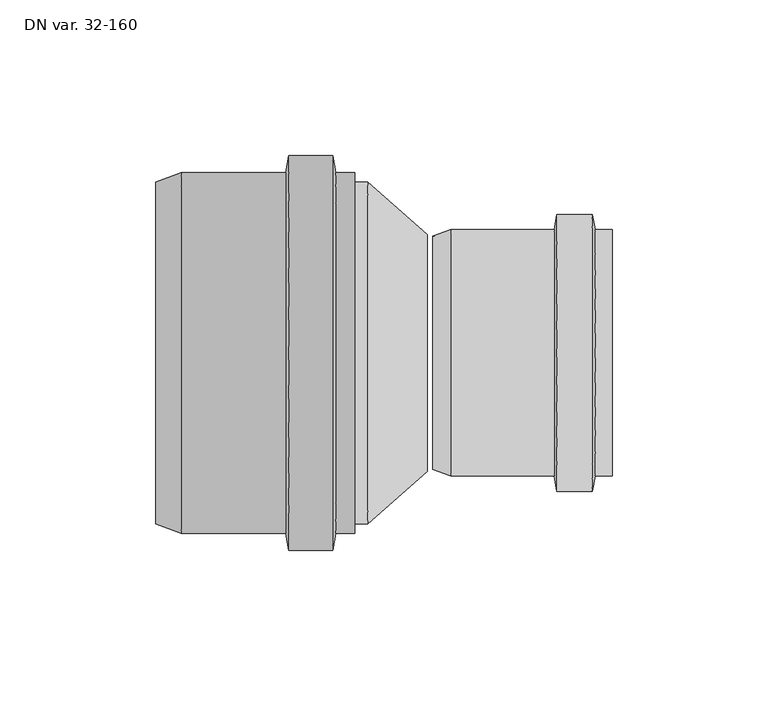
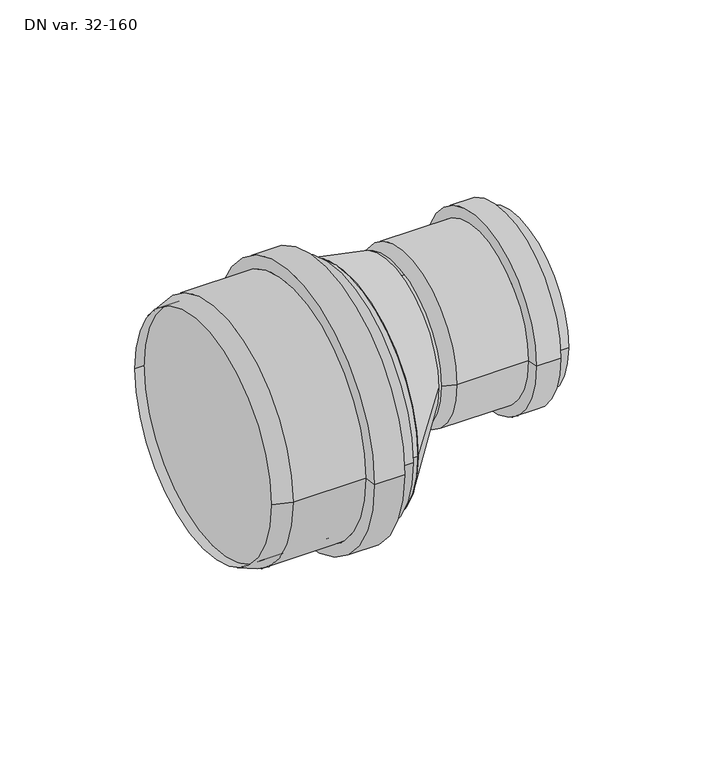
"""IFC4 building model written with IfcOpenShell, lengths in millimetres: pipe fitting geometry, PP MASTER 3+ INZETVERLOOP EXCENT. : DN var. 32-160."""

from ifc_helpers import new_model, si_unit, point, frame, origin, origin_2d, place, context, project, spatial, polyline, circle_curve, trimmed, segment, composite_curve, outline, extrude, source, transform, mapped, element, save
from ifc_brep_helpers import plane_surface, cylinder_surface, revolved_surface, spline_surface, advanced_brep


def dn_var_32_160_0daad809(model_context):
    return source(origin(), model_context, "Body", "SolidModel", [
        advanced_brep(
        [(15.9287839, -55.0, 0.0), (15.9287839, 55.0, 0.0), (-48.0712161, 55.0, 0.0), (-48.0712161, -55.0, 0.0), (-39.8287839, 58.0, 0.0), (-39.8287839, -58.0, 0.0), (-6.1712161, 58.0, 0.0), (-6.1712161, -58.0, 0.0), (-5.2014177, 63.5, 0.0), (-5.2014177, -63.5, 0.0), (8.8589855, 63.5, 0.0), (8.8589855, -63.5, 0.0), (9.8287839, 58.0, 0.0), (9.8287839, -58.0, 0.0), (15.9287839, 58.0, 0.0), (15.9287839, -58.0, 0.0)],
        [
            (0, 1, circle_curve(frame((15.9287839, 0.0, 0.0), z_axis=(1.0, 0.0, 0.0), x_axis=(0.0, 1.0, 0.0)), 55.0)),
            (1, 2),
            (2, 3, circle_curve(frame((-48.0712161, 0.0, 0.0), z_axis=(-1.0, 0.0, 0.0), x_axis=(0.0, 1.0, 0.0)), 55.0)),
            (3, 0),
            (1, 0, circle_curve(frame((15.9287839, 0.0, 0.0), z_axis=(1.0, 0.0, 0.0), x_axis=(0.0, 1.0, 0.0)), 55.0)),
            (3, 2, circle_curve(frame((-48.0712161, 0.0, 0.0), z_axis=(-1.0, 0.0, 0.0), x_axis=(0.0, 1.0, 0.0)), 55.0)),
            (2, 4),
            (4, 5, circle_curve(frame((-39.8287839, 0.0, 0.0), z_axis=(-1.0, 0.0, 0.0), x_axis=(0.0, 1.0, 0.0)), 58.0)),
            (5, 3),
            (5, 4, circle_curve(frame((-39.8287839, 0.0, 0.0), z_axis=(-1.0, 0.0, 0.0), x_axis=(0.0, 1.0, 0.0)), 58.0)),
            (4, 6),
            (6, 7, circle_curve(frame((-6.1712161, 0.0, 0.0), z_axis=(-1.0, 0.0, 0.0), x_axis=(0.0, 1.0, 0.0)), 58.0)),
            (7, 5),
            (7, 6, circle_curve(frame((-6.1712161, 0.0, 0.0), z_axis=(-1.0, 0.0, 0.0), x_axis=(0.0, 1.0, 0.0)), 58.0)),
            (6, 8),
            (8, 9, circle_curve(frame((-5.2014177, 0.0, 0.0), z_axis=(-1.0, 0.0, 0.0), x_axis=(0.0, 1.0, 0.0)), 63.5)),
            (9, 7),
            (9, 8, circle_curve(frame((-5.2014177, 0.0, 0.0), z_axis=(-1.0, 0.0, 0.0), x_axis=(0.0, 1.0, 0.0)), 63.5)),
            (8, 10),
            (10, 11, circle_curve(frame((8.8589855, 0.0, 0.0), z_axis=(-1.0, 0.0, 0.0), x_axis=(0.0, 1.0, 0.0)), 63.5)),
            (11, 9),
            (11, 10, circle_curve(frame((8.8589855, 0.0, 0.0), z_axis=(-1.0, 0.0, 0.0), x_axis=(0.0, 1.0, 0.0)), 63.5)),
            (10, 12),
            (12, 13, circle_curve(frame((9.8287839, 0.0, 0.0), z_axis=(-1.0, 0.0, 0.0), x_axis=(0.0, 1.0, 0.0)), 58.0)),
            (13, 11),
            (13, 12, circle_curve(frame((9.8287839, 0.0, 0.0), z_axis=(-1.0, 0.0, 0.0), x_axis=(0.0, 1.0, 0.0)), 58.0)),
            (12, 14),
            (14, 15, circle_curve(frame((15.9287839, 0.0, 0.0), z_axis=(-1.0, 0.0, 0.0), x_axis=(0.0, 1.0, 0.0)), 58.0)),
            (15, 13),
            (15, 14, circle_curve(frame((15.9287839, 0.0, 0.0), z_axis=(-1.0, 0.0, 0.0), x_axis=(0.0, 1.0, 0.0)), 58.0)),
            (14, 1),
            (0, 15),
        ],
        [
            revolved_surface(polyline([(-48.0712161, 55.0, 0.0), (15.9287839, 55.0, 0.0)]), (25.9287839, 0.0, 0.0), (-1.0, 0.0, 0.0)),
            revolved_surface(polyline([(-39.8287839, 58.0, 0.0), (-48.0712161, 55.0, 0.0)]), (25.9287839, 0.0, 0.0), (-1.0, 0.0, 0.0)),
            cylinder_surface(frame((25.9287839, 0.0, 0.0), z_axis=(-1.0, 0.0, 0.0), x_axis=(0.0, 1.0, 0.0)), 58.0),
            revolved_surface(polyline([(-5.2014177, 63.5, 0.0), (-6.1712161, 58.0, 0.0)]), (25.9287839, 0.0, 0.0), (-1.0, 0.0, 0.0)),
            cylinder_surface(frame((25.9287839, 0.0, 0.0), z_axis=(-1.0, 0.0, 0.0), x_axis=(0.0, 1.0, 0.0)), 63.5),
            revolved_surface(polyline([(9.8287839, 58.0, 0.0), (8.8589855, 63.5, 0.0)]), (25.9287839, 0.0, 0.0), (-1.0, 0.0, 0.0)),
            plane_surface(frame((15.9287839, 0.0, 0.0), z_axis=(1.0, 0.0, 0.0), x_axis=(0.0, 1.0, 0.0))),
        ],
        [
            (0, [[1, 2, 3, 4]]),
            (0, [[5, -4, 6, -2]]),
            (1, [[-3, 7, 8, 9]]),
            (1, [[-6, -9, 10, -7]]),
            (2, [[-8, 11, 12, 13]]),
            (2, [[-10, -13, 14, -11]]),
            (3, [[-12, 15, 16, 17]]),
            (3, [[-14, -17, 18, -15]]),
            (4, [[-16, 19, 20, 21]]),
            (4, [[-18, -21, 22, -19]]),
            (5, [[-20, 23, 24, 25]]),
            (5, [[-22, -25, 26, -23]]),
            (2, [[-24, 27, 28, 29]]),
            (2, [[-26, -29, 30, -27]]),
            (6, [[-28, 31, -1, 32]]),
            (6, [[-30, -32, -5, -31]]),
        ],
    ),
        advanced_brep(
        [(41.0651487, 37.5, 16.4), (41.0651487, -37.5, 16.4), (98.7651487, -37.5, 16.4), (98.7651487, 37.5, 16.4), (46.8348513, 39.6, 16.4), (46.8348513, -39.6, 16.4), (80.0651487, 39.6, 16.4), (80.0651487, -39.6, 16.4), (80.9379673, 44.55, 16.4), (80.9379673, -44.55, 16.4), (92.2923302, 44.55, 16.4), (92.2923302, -44.55, 16.4), (93.1651487, 39.6, 16.4), (93.1651487, -39.6, 16.4), (98.7651487, 39.6, 16.4), (98.7651487, -39.6, 16.4)],
        [
            (0, 1, circle_curve(frame((41.0651487, 0.0, 16.4), z_axis=(-1.0, 0.0, 0.0), x_axis=(0.0, -1.0, 0.0)), 37.5)),
            (1, 2),
            (2, 3, circle_curve(frame((98.7651487, 0.0, 16.4), z_axis=(1.0, 0.0, 0.0), x_axis=(0.0, -1.0, 0.0)), 37.5)),
            (3, 0),
            (1, 0, circle_curve(frame((41.0651487, 0.0, 16.4), z_axis=(-1.0, 0.0, 0.0), x_axis=(0.0, -1.0, 0.0)), 37.5)),
            (3, 2, circle_curve(frame((98.7651487, 0.0, 16.4), z_axis=(1.0, 0.0, 0.0), x_axis=(0.0, -1.0, 0.0)), 37.5)),
            (4, 5, circle_curve(frame((46.8348513, 0.0, 16.4), z_axis=(-1.0, 0.0, 0.0), x_axis=(0.0, -1.0, 0.0)), 39.6)),
            (5, 1),
            (0, 4),
            (5, 4, circle_curve(frame((46.8348513, 0.0, 16.4), z_axis=(-1.0, 0.0, 0.0), x_axis=(0.0, -1.0, 0.0)), 39.6)),
            (6, 7, circle_curve(frame((80.0651487, 0.0, 16.4), z_axis=(-1.0, 0.0, 0.0), x_axis=(0.0, -1.0, 0.0)), 39.6)),
            (7, 5),
            (4, 6),
            (7, 6, circle_curve(frame((80.0651487, 0.0, 16.4), z_axis=(-1.0, 0.0, 0.0), x_axis=(0.0, -1.0, 0.0)), 39.6)),
            (8, 9, circle_curve(frame((80.9379673, 0.0, 16.4), z_axis=(-1.0, 0.0, 0.0), x_axis=(0.0, -1.0, 0.0)), 44.55)),
            (9, 7),
            (6, 8),
            (9, 8, circle_curve(frame((80.9379673, 0.0, 16.4), z_axis=(-1.0, 0.0, 0.0), x_axis=(0.0, -1.0, 0.0)), 44.55)),
            (10, 11, circle_curve(frame((92.2923302, 0.0, 16.4), z_axis=(-1.0, 0.0, 0.0), x_axis=(0.0, -1.0, 0.0)), 44.55)),
            (11, 9),
            (8, 10),
            (11, 10, circle_curve(frame((92.2923302, 0.0, 16.4), z_axis=(-1.0, 0.0, 0.0), x_axis=(0.0, -1.0, 0.0)), 44.55)),
            (12, 13, circle_curve(frame((93.1651487, 0.0, 16.4), z_axis=(-1.0, 0.0, 0.0), x_axis=(0.0, -1.0, 0.0)), 39.6)),
            (13, 11),
            (10, 12),
            (13, 12, circle_curve(frame((93.1651487, 0.0, 16.4), z_axis=(-1.0, 0.0, 0.0), x_axis=(0.0, -1.0, 0.0)), 39.6)),
            (14, 15, circle_curve(frame((98.7651487, 0.0, 16.4), z_axis=(-1.0, 0.0, 0.0), x_axis=(0.0, -1.0, 0.0)), 39.6)),
            (15, 13),
            (12, 14),
            (15, 14, circle_curve(frame((98.7651487, 0.0, 16.4), z_axis=(-1.0, 0.0, 0.0), x_axis=(0.0, -1.0, 0.0)), 39.6)),
            (2, 15),
            (14, 3),
        ],
        [
            revolved_surface(polyline([(98.7651487, -37.5, 16.4), (41.06514870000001, -37.5, 16.4)]), (108.7651487, 0.0, 16.4), (1.0, 0.0, 0.0)),
            revolved_surface(polyline([(41.0651487, -37.5, 16.4), (46.8348513, -39.6, 16.4)]), (108.7651487, 0.0, 16.4), (1.0, 0.0, 0.0)),
            cylinder_surface(frame((108.7651487, 0.0, 16.4), z_axis=(1.0, 0.0, 0.0), x_axis=(0.0, -1.0, 0.0)), 39.6),
            revolved_surface(polyline([(80.0651487, -39.6, 16.4), (80.9379673, -44.55, 16.4)]), (108.7651487, 0.0, 16.4), (1.0, 0.0, 0.0)),
            cylinder_surface(frame((108.7651487, 0.0, 16.4), z_axis=(1.0, 0.0, 0.0), x_axis=(0.0, -1.0, 0.0)), 44.55),
            revolved_surface(polyline([(92.2923302, -44.55, 16.4), (93.1651487, -39.6, 16.4)]), (108.7651487, 0.0, 16.4), (1.0, 0.0, 0.0)),
            plane_surface(frame((98.7651487, 0.0, 16.4), z_axis=(1.0, 0.0, 0.0), x_axis=(0.0, -1.0, 0.0))),
        ],
        [
            (0, [[1, 2, 3, 4]]),
            (0, [[5, -4, 6, -2]]),
            (1, [[7, 8, -1, 9]]),
            (1, [[10, -9, -5, -8]]),
            (2, [[11, 12, -7, 13]]),
            (2, [[14, -13, -10, -12]]),
            (3, [[15, 16, -11, 17]]),
            (3, [[18, -17, -14, -16]]),
            (4, [[19, 20, -15, 21]]),
            (4, [[22, -21, -18, -20]]),
            (5, [[23, 24, -19, 25]]),
            (5, [[26, -25, -22, -24]]),
            (2, [[27, 28, -23, 29]]),
            (2, [[30, -29, -26, -28]]),
            (6, [[-3, 31, -27, 32]]),
            (6, [[-6, -32, -30, -31]]),
        ],
    ),
        advanced_brep(
        [(39.2792884, -38.05, 16.4), (39.2792884, 38.05, 16.4), (20.05, -55.0, 0.0), (20.05, 55.0, 0.0)],
        [
            (0, 1, circle_curve(frame((39.2792884, 0.0, 16.4), z_axis=(1.0, 0.0, 0.0), x_axis=(0.0, 1.0, 0.0)), 38.05)),
            (1, 0, circle_curve(frame((39.2792884, 0.0, 16.4), z_axis=(1.0, 0.0, 0.0), x_axis=(0.0, 1.0, 0.0)), 38.05)),
            (2, 3, circle_curve(frame((20.05, 0.0, 0.0), z_axis=(-1.0, 0.0, 0.0), x_axis=(0.0, 1.0, 0.0)), 55.0)),
            (3, 2, circle_curve(frame((20.05, 0.0, 0.0), z_axis=(-1.0, 0.0, 0.0), x_axis=(0.0, 1.0, 0.0)), 55.0)),
            (3, 1),
            (0, 2),
        ],
        [
            plane_surface(frame((39.2792884, 0.0, 16.4), z_axis=(1.0, 0.0, 0.0), x_axis=(0.0, 0.0, -1.0))),
            plane_surface(frame((20.05, 0.0, 0.0), z_axis=(-1.0, 0.0, 0.0), x_axis=(0.0, 0.0, -1.0))),
            spline_surface(2, 1, [[(20.05, -55.0, 0.0), (39.2792884, -38.05, 16.4)], [(20.05, -55.0, -55.0), (39.2792884, -38.05, -21.65)], [(20.05, 0.0, -55.0), (39.2792884, 0.0, -21.65)], [(20.05, 55.0, -55.0), (39.2792884, 38.05, -21.65)], [(20.05, 55.0, 0.0), (39.2792884, 38.05, 16.4)]], [3, 2, 3], [2, 2], [0.0, 1.0, 2.0], [0.0, 1.0], weights=[[1.0, 1.0], [0.7071067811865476, 0.7071067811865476], [1.0, 1.0], [0.7071067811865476, 0.7071067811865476], [1.0, 1.0]]),
            spline_surface(2, 1, [[(20.05, 55.0, 0.0), (39.2792884, 38.05, 16.4)], [(20.05, 55.0, 55.0), (39.2792884, 38.05, 54.449999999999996)], [(20.05, 0.0, 55.0), (39.2792884, 0.0, 54.449999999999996)], [(20.05, -55.0, 55.0), (39.2792884, -38.05, 54.449999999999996)], [(20.05, -55.0, 0.0), (39.2792884, -38.05, 16.4)]], [3, 2, 3], [2, 2], [0.0, 1.0, 2.0], [0.0, 1.0], weights=[[1.0, 1.0], [0.7071067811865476, 0.7071067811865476], [1.0, 1.0], [0.7071067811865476, 0.7071067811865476], [1.0, 1.0]]),
        ],
        [
            (0, [[1, 2]]),
            (1, [[3, 4]]),
            (2, [[-4, 5, -1, 6]]),
            (3, [[-3, -6, -2, -5]]),
        ],
    ),
        extrude(outline(composite_curve([segment(trimmed(circle_curve(origin_2d(), 55.0), [point((-55.0, 0.0))], [point((55.0, 0.0))], False, "CARTESIAN"), True, "CONTINUOUS"), segment(trimmed(circle_curve(origin_2d(), 55.0), [point((55.0, 0.0))], [point((-55.0, 0.0))], False, "CARTESIAN"), True, "CONTINUOUS")], self_intersect=False)), frame((-43.95, 0.0, 0.0), z_axis=(1.0, 0.0, 0.0), x_axis=(0.0, 1.0, 0.0)), (0.0, 0.0, 1.0), 64.0),
    ])


if __name__ == "__main__":
    model = new_model("IFC4")
    model_context = context("Model", 3, world=origin())
    ifc_project = project(units=[si_unit("LENGTHUNIT", "METRE", prefix="MILLI")], contexts=[model_context])
    site = spatial("IfcSite", under=ifc_project)
    building = spatial("IfcBuilding", under=site)
    placement = place(None, origin())
    dn_var_32_160_shape = dn_var_32_160_0daad809(model_context)
    element("IfcPipeFitting", 1, ObjectType="PP MASTER 3+ INZETVERLOOP EXCENT. : DN var. 32-160", at=placement, inside=building, context=model_context, shape_type="MappedRepresentation", body=[
        mapped(dn_var_32_160_shape, transform((0.0, 0.0, 0.0), x_axis=(1.0, 0.0, 0.0), y_axis=(0.0, 1.0, 0.0), z_axis=(0.0, 0.0, 1.0))),
    ])
    save(model, "model.ifc")
